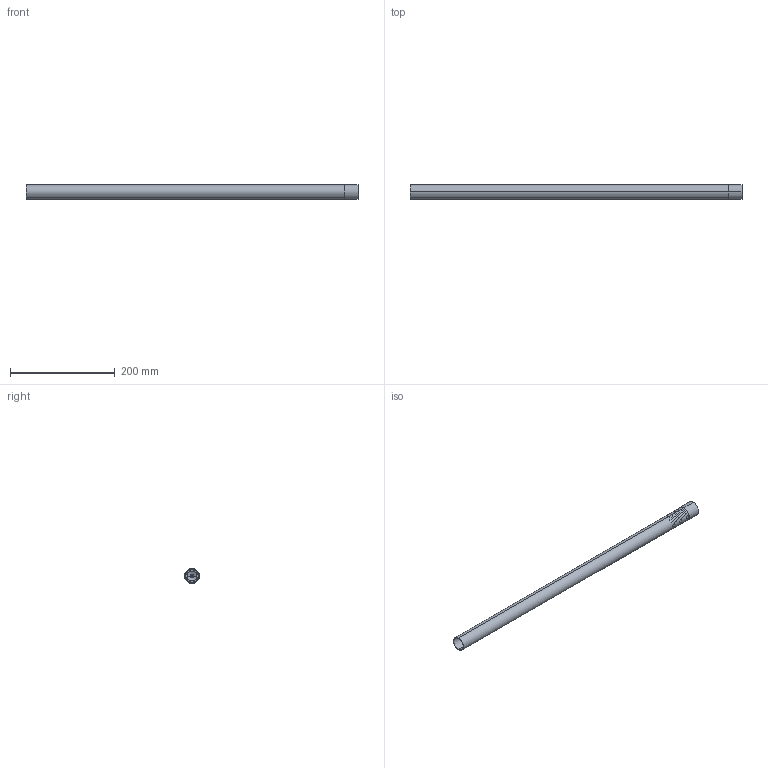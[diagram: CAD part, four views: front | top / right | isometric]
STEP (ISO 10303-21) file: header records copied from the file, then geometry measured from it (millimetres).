
FILE_DESCRIPTION (( 'STEP AP214' ), '1' );
FILE_NAME ('Flat End Connector.STEP', '2013-08-19T13:00:50', ( 'ydmin' ), ( 'Microsoft' ), 'SwSTEP 2.0', 'SolidWorks 2013', '' );
FILE_SCHEMA (( 'AUTOMOTIVE_DESIGN' ));
Length unit declared in the file: inch
Products named in the file (4): 91990A255 (1)_91990A255; DRP-002-0513-00_FLAT END WITH THREADED HOLE; 6.000 Inch Tube; Flat End Connector
Assembly tree (3 placements, depth 2):
  Flat End Connector
    6.000 Inch Tube
    DRP-002-0513-00_FLAT END WITH THREADED HOLE
    91990A255 (1)_91990A255
Bounding box: 635 x 28.57 x 28.57 mm (x, y, z)
Volume: 74224.9 mm3; surface area: 113831.8 mm2
Topology: 3 solids, 3 shells, 234 faces, 682 edges, 454 vertices
Faces by surface type: cylinder 108, plane 108, torus 8, bspline 8, cone 2
Entity records: 9520 total; most frequent: CARTESIAN_POINT 2976, DIRECTION 1374, ORIENTED_EDGE 1364, EDGE_CURVE 682, AXIS2_PLACEMENT_3D 480, VERTEX_POINT 454, LINE 414, VECTOR 414
